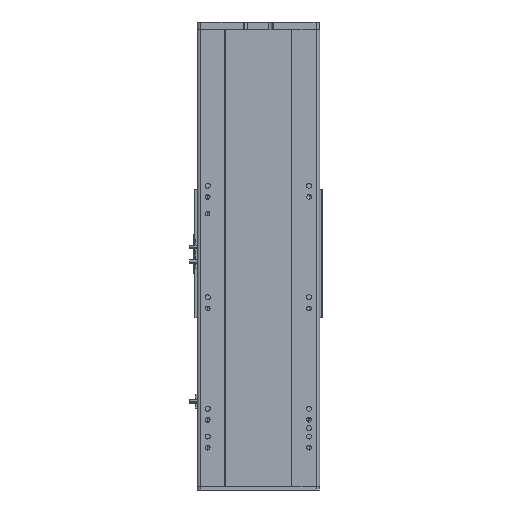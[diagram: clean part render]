
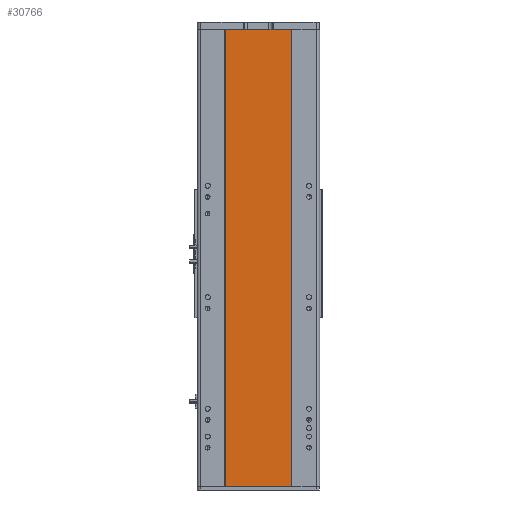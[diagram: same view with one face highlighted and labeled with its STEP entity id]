
A CAD part, front view. The second image highlights one B-rep face of the part: STEP entity #30766.
In plain terms, the highlighted planar face has unit normal (0, -1, 0).
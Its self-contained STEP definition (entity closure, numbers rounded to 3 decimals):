
#480 = ORIENTED_EDGE ( 'NONE', *, *, #28360, .F. ) ;
#1101 = LINE ( 'NONE', #27479, #15586 ) ;
#1362 = EDGE_CURVE ( 'NONE', #34813, #13772, #23416, .T. ) ;
#1449 = CARTESIAN_POINT ( 'NONE',  ( -59., 1., 410.5 ) ) ;
#1472 = ORIENTED_EDGE ( 'NONE', *, *, #26154, .T. ) ;
#4600 = ORIENTED_EDGE ( 'NONE', *, *, #1362, .F. ) ;
#4618 = LINE ( 'NONE', #5761, #20933 ) ;
#4721 = EDGE_CURVE ( 'NONE', #34813, #8959, #1101, .T. ) ;
#5761 = CARTESIAN_POINT ( 'NONE',  ( -59., 1., -410.5 ) ) ;
#8864 = CARTESIAN_POINT ( 'NONE',  ( -59., 1., 410.5 ) ) ;
#8959 = VERTEX_POINT ( 'NONE', #11614 ) ;
#10020 = DIRECTION ( 'NONE',  ( 0., 1., 0. ) ) ;
#11614 = CARTESIAN_POINT ( 'NONE',  ( -59., 1., -410.5 ) ) ;
#12426 = PLANE ( 'NONE',  #28687 ) ;
#13772 = VERTEX_POINT ( 'NONE', #24575 ) ;
#15580 = DIRECTION ( 'NONE',  ( -1., 0., 0. ) ) ;
#15586 = VECTOR ( 'NONE', #16254, 1000. ) ;
#16254 = DIRECTION ( 'NONE',  ( 0., 0., -1. ) ) ;
#17442 = CARTESIAN_POINT ( 'NONE',  ( 59., 1., 410.5 ) ) ;
#18590 = LINE ( 'NONE', #17442, #35728 ) ;
#20247 = VERTEX_POINT ( 'NONE', #24938 ) ;
#20933 = VECTOR ( 'NONE', #27957, 1000. ) ;
#22608 = EDGE_LOOP ( 'NONE', ( #1472, #480, #4600, #27596 ) ) ;
#23353 = CARTESIAN_POINT ( 'NONE',  ( -59., 1., 410.5 ) ) ;
#23416 = LINE ( 'NONE', #8864, #26956 ) ;
#24575 = CARTESIAN_POINT ( 'NONE',  ( 59., 1., 410.5 ) ) ;
#24938 = CARTESIAN_POINT ( 'NONE',  ( 59., 1., -410.5 ) ) ;
#26154 = EDGE_CURVE ( 'NONE', #8959, #20247, #4618, .T. ) ;
#26956 = VECTOR ( 'NONE', #36411, 1000. ) ;
#27479 = CARTESIAN_POINT ( 'NONE',  ( -59., 1., 410.5 ) ) ;
#27596 = ORIENTED_EDGE ( 'NONE', *, *, #4721, .T. ) ;
#27957 = DIRECTION ( 'NONE',  ( 1., 0., 0. ) ) ;
#28360 = EDGE_CURVE ( 'NONE', #13772, #20247, #18590, .T. ) ;
#28687 = AXIS2_PLACEMENT_3D ( 'NONE', #1449, #10020, #15580 ) ;
#29797 = FACE_OUTER_BOUND ( 'NONE', #22608, .T. ) ;
#30766 = ADVANCED_FACE ( 'NONE', ( #29797 ), #12426, .F. ) ;
#31328 = DIRECTION ( 'NONE',  ( 0., 0., -1. ) ) ;
#34813 = VERTEX_POINT ( 'NONE', #23353 ) ;
#35728 = VECTOR ( 'NONE', #31328, 1000. ) ;
#36411 = DIRECTION ( 'NONE',  ( 1., 0., 0. ) ) ;
